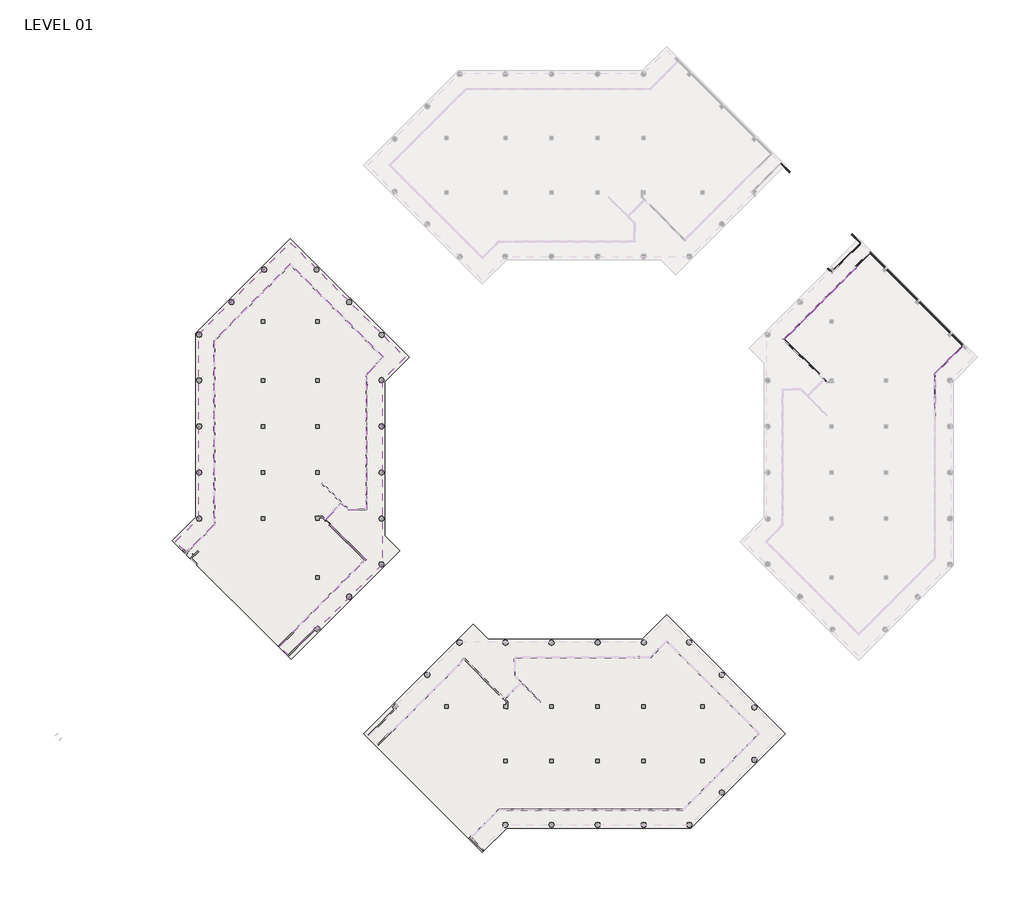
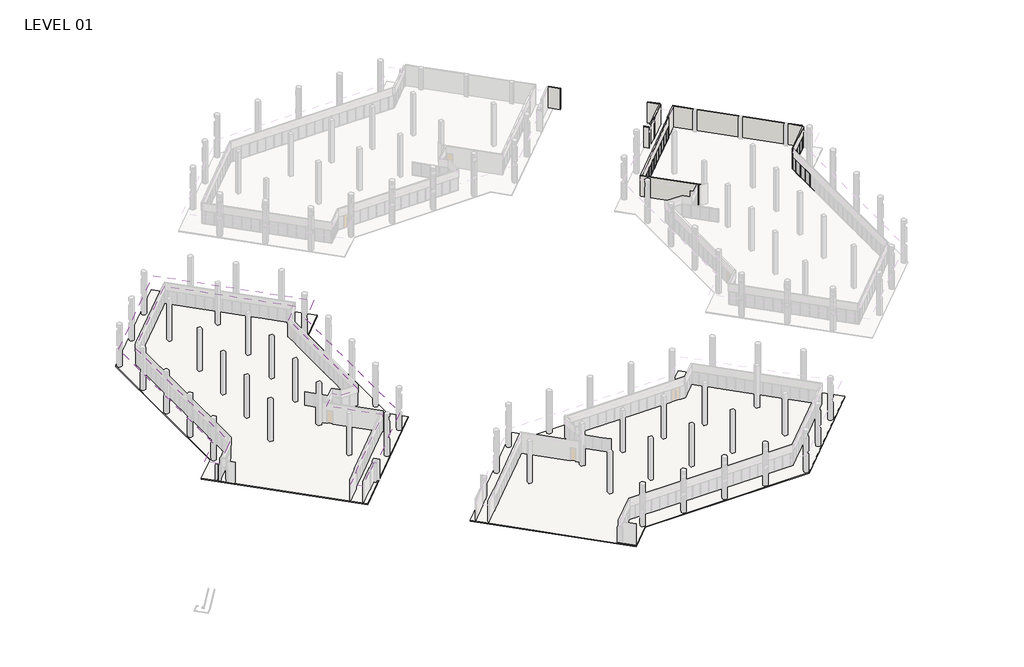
# One storey, part 15 of 24: 64 members, 20 plates, 14 walls, 2 slabs, 1 covering.
"""IFC4 building model written with IfcOpenShell, lengths in millimetres."""

from ifc_helpers import new_model, si_unit, frame, origin, origin_with_axes, place, context, project, spatial, polyline, outline, extrude, faceted_brep, transform, mapped, element, save
from components import member_ed5eb8ce, member_5247f267, member_e44af9ab, member_800970d4, member_224475ab, member_cca1f9e6, member_ccf7f6e3, plate_ce959b8d, plate_67294edd, plate_43a54168, plate_d12b1ad5, plate_aaac5d3d, plate_5a14c350, plate_1cd28498

model = new_model("IFC4")

# Units and contexts
model_context = context("Model", 3, world=origin())
ifc_project = project(units=[si_unit("LENGTHUNIT", "METRE", prefix="MILLI")], contexts=[model_context])

# Site, building, storey
site = spatial("IfcSite", under=ifc_project)
building = spatial("IfcBuilding", under=site)
storey = spatial("IfcBuildingStorey", under=building, Name="LEVEL 01", Elevation=0.0)

# Covering
placement = place(None, origin())
element("IfcCovering", 1, ObjectType="Stucco + Metal Suspension Channels", at=placement, inside=storey, context=model_context, shape_type="SweptSolid", body=[
    extrude(outline(polyline([(-34875.4336714, 40959.4165435), (-36193.9847164, 42277.9675885), (-32383.9847164, 46087.9675885), (-32383.9847164, 76567.9675885), (-17197.9597164, 91753.9925885), (1798.0652836, 72757.9675885), (-2011.9347164, 68947.9675885), (-2011.9347164, 38467.9675885), (-12428.6744716, 28051.2278334), (-12698.0821552, 28320.635517), (-12841.7662531, 28176.9514191), (-12859.7267654, 28194.9119313), (-13290.7790592, 27763.8596375), (-13272.8185469, 27745.8991252), (-14701.4485147, 26317.2691574), (-14755.3300515, 26371.1506942), (-17557.1699612, 23569.3107844), (-18927.4282643, 24939.5690874), (-16636.6937088, 27230.3036428), (-16703.2763852, 27296.8863192), (-4849.412314, 39150.7503904), (-4809.0011615, 39110.3392378), (-4665.3170635, 39254.0233358), (-11342.7867019, 45931.4929741), (-8728.3654509, 48545.9142251), (-7692.8188143, 47510.3675885), (-4501.1347164, 47510.3675885), (-4501.1347164, 69979.027988), (-1722.1951159, 72757.9675885), (-17197.9597164, 88233.7321891), (-29894.7847164, 75536.9071891), (-29894.7847164, 45056.9071891), (-34362.0124677, 40589.6794378), (-34803.5916224, 41031.2585924), (-34875.4336714, 40959.4165435)])), frame((0.0, 0.0, 3225.8), z_axis=(0.0, 0.0, 1.0), x_axis=(1.0, 0.0, 0.0)), (0.0, 0.0, 1.0), 38.1),
])

# Members
member_shape = member_ed5eb8ce(model_context)
element("IfcMember", 2, ObjectType="Rectangular Mullion : 2\" x 4.5\" rectangular", at=placement, inside=storey, context=model_context, shape_type="MappedRepresentation", body=[
    mapped(member_shape, transform((89445.0847164, 68973.3675885, 2590.8), x_axis=(0.0, 0.0, 1.0), y_axis=(-1.0, 0.0, 0.0), z_axis=(0.0, -1.0, 0.0))),
])
element("IfcMember", 3, ObjectType="Rectangular Mullion : 2\" x 4.5\" rectangular", at=placement, inside=storey, context=model_context, shape_type="MappedRepresentation", body=[
    mapped(member_shape, transform((90185.9558464, 70761.9832159, 2590.8), x_axis=(0.0, 0.0, 1.0), y_axis=(0.7071067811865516, -0.7071067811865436, 0.0), z_axis=(0.7071067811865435, 0.7071067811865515, 0.0))),
])
member_2_shape = member_5247f267(model_context)
element("IfcMember", 4, ObjectType="Rectangular Mullion : 2\" x 4.5\" rectangular", at=placement, inside=storey, context=model_context, shape_type="MappedRepresentation", body=[
    mapped(member_2_shape, transform((89445.0847164, 67449.3675885, 2590.8), x_axis=(0.0, 0.0, 1.0), y_axis=(-1.0, 0.0, 0.0), z_axis=(0.0, -1.0, 0.0))),
])
element("IfcMember", 5, ObjectType="Rectangular Mullion : 2\" x 4.5\" rectangular", at=placement, inside=storey, context=model_context, shape_type="MappedRepresentation", body=[
    mapped(member_2_shape, transform((72134.4856117, 83374.6739865, 2590.8), x_axis=(0.0, 0.0, 1.0), y_axis=(-0.7071067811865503, 0.7071067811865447, 0.0), z_axis=(-0.7071067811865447, -0.7071067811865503, 0.0))),
])
element("IfcMember", 6, ObjectType="Rectangular Mullion : 2\" x 4.5\" rectangular", at=placement, inside=storey, context=model_context, shape_type="MappedRepresentation", body=[
    mapped(member_2_shape, transform((69979.2537461, 81219.4421209, 2590.8), x_axis=(0.0, 0.0, 1.0), y_axis=(-0.7071067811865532, 0.7071067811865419, 0.0), z_axis=(-0.7071067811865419, -0.7071067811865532, 0.0))),
])
element("IfcMember", 7, ObjectType="Rectangular Mullion : 2\" x 4.5\" rectangular", at=placement, inside=storey, context=model_context, shape_type="MappedRepresentation", body=[
    mapped(member_2_shape, transform((68901.6378133, 80141.8261881, 2590.8), x_axis=(0.0, 0.0, 1.0), y_axis=(-0.7071067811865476, 0.7071067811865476, 0.0), z_axis=(-0.7071067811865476, -0.7071067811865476, 0.0))),
])
element("IfcMember", 8, ObjectType="Rectangular Mullion : 2\" x 4.5\" rectangular", at=placement, inside=storey, context=model_context, shape_type="MappedRepresentation", body=[
    mapped(member_2_shape, transform((66746.3763443, 77986.564719, 2590.8), x_axis=(0.0, 0.0, 1.0), y_axis=(-0.7071067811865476, 0.7071067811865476, 0.0), z_axis=(-0.7071067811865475, -0.7071067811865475, 0.0))),
])
element("IfcMember", 9, ObjectType="Rectangular Mullion : 2\" x 4.5\" rectangular", at=placement, inside=storey, context=model_context, shape_type="MappedRepresentation", body=[
    mapped(member_2_shape, transform((92341.2173154, 72917.244685, 2590.8), x_axis=(0.0, 0.0, 1.0), y_axis=(0.7071067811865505, -0.7071067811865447, 0.0), z_axis=(0.7071067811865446, 0.7071067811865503, 0.0))),
])
element("IfcMember", 10, ObjectType="Rectangular Mullion : 2\" x 4.5\" rectangular", at=placement, inside=storey, context=model_context, shape_type="MappedRepresentation", body=[
    mapped(member_2_shape, transform((89445.0847164, 65925.3675885, 2590.8), x_axis=(0.0, 0.0, 1.0), y_axis=(-1.0, 0.0, 0.0), z_axis=(0.0, -1.0, 0.0))),
])
element("IfcMember", 11, ObjectType="Rectangular Mullion : 2\" x 4.5\" rectangular", at=placement, inside=storey, context=model_context, shape_type="MappedRepresentation", body=[
    mapped(member_2_shape, transform((89445.0847164, 64401.3675885, 2590.8), x_axis=(0.0, 0.0, 1.0), y_axis=(-1.0, 0.0, 0.0), z_axis=(0.0, -1.0, 0.0))),
])
element("IfcMember", 12, ObjectType="Rectangular Mullion : 2\" x 4.5\" rectangular", at=placement, inside=storey, context=model_context, shape_type="MappedRepresentation", body=[
    mapped(member_2_shape, transform((74289.7174773, 85529.9058521, 2590.8), x_axis=(0.0, 0.0, 1.0), y_axis=(-0.7071067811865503, 0.7071067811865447, 0.0), z_axis=(-0.7071067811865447, -0.7071067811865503, 0.0))),
])
element("IfcMember", 13, ObjectType="Rectangular Mullion : 2\" x 4.5\" rectangular", at=placement, inside=storey, context=model_context, shape_type="MappedRepresentation", body=[
    mapped(member_2_shape, transform((71056.8696789, 82297.0580537, 2590.8), x_axis=(0.0, 0.0, 1.0), y_axis=(-0.7071067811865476, 0.7071067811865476, 0.0), z_axis=(-0.7071067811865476, -0.7071067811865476, 0.0))),
])
element("IfcMember", 14, ObjectType="Rectangular Mullion : 2\" x 4.5\" rectangular", at=placement, inside=storey, context=model_context, shape_type="MappedRepresentation", body=[
    mapped(member_2_shape, transform((73212.1015445, 84452.2899193, 2590.8), x_axis=(0.0, 0.0, 1.0), y_axis=(-0.7071067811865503, 0.7071067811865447, 0.0), z_axis=(-0.7071067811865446, -0.7071067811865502, 0.0))),
])
element("IfcMember", 15, ObjectType="Rectangular Mullion : 2\" x 4.5\" rectangular", at=placement, inside=storey, context=model_context, shape_type="MappedRepresentation", body=[
    mapped(member_2_shape, transform((67824.0070788, 79064.1954535, 2590.8), x_axis=(0.0, 0.0, 1.0), y_axis=(-0.7071067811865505, 0.7071067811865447, 0.0), z_axis=(-0.7071067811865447, -0.7071067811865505, 0.0))),
])
element("IfcMember", 16, ObjectType="Rectangular Mullion : 2\" x 4.5\" rectangular", at=placement, inside=storey, context=model_context, shape_type="MappedRepresentation", body=[
    mapped(member_2_shape, transform((65668.7456097, 76908.9339845, 2590.8), x_axis=(0.0, 0.0, 1.0), y_axis=(-0.7071067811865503, 0.7071067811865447, 0.0), z_axis=(-0.7071067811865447, -0.7071067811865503, 0.0))),
])
element("IfcMember", 17, ObjectType="Rectangular Mullion : 2\" x 4.5\" rectangular", at=placement, inside=storey, context=model_context, shape_type="MappedRepresentation", body=[
    mapped(member_2_shape, transform((91263.5865809, 71839.6139504, 2590.8), x_axis=(0.0, 0.0, 1.0), y_axis=(0.7071067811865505, -0.7071067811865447, 0.0), z_axis=(0.7071067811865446, 0.7071067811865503, 0.0))),
])
element("IfcMember", 18, ObjectType="Rectangular Mullion : 2\" x 4.5\" rectangular", at=placement, inside=storey, context=model_context, shape_type="MappedRepresentation", body=[
    mapped(member_2_shape, transform((93418.84805, 73994.8754195, 2590.8), x_axis=(0.0, 0.0, 1.0), y_axis=(0.7071067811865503, -0.7071067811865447, 0.0), z_axis=(0.7071067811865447, 0.7071067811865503, 0.0))),
])
element("IfcMember", 19, ObjectType="Rectangular Mullion : 2\" x 4.5\" rectangular", at=placement, inside=storey, context=model_context, shape_type="MappedRepresentation", body=[
    mapped(member_shape, transform((89445.0847164, 69970.3120859, 0.0), x_axis=(0.0, 0.0, -1.0), y_axis=(-1.0, 0.0, 0.0), z_axis=(0.0, 1.0, 0.0))),
])
element("IfcMember", 20, ObjectType="Rectangular Mullion : 2\" x 4.5\" rectangular", at=placement, inside=storey, context=model_context, shape_type="MappedRepresentation", body=[
    mapped(member_shape, transform((89481.0057409, 70057.0331104, 0.0), x_axis=(0.0, 0.0, -1.0), y_axis=(0.7071067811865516, -0.7071067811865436, 0.0), z_axis=(-0.7071067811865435, -0.7071067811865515, 0.0))),
])
element("IfcMember", 21, ObjectType="Rectangular Mullion : 2\" x 4.5\" rectangular", at=placement, inside=storey, context=model_context, shape_type="MappedRepresentation", body=[
    mapped(member_2_shape, transform((89445.0847164, 68922.5675885, 0.0), x_axis=(0.0, 0.0, -1.0), y_axis=(-1.0, 0.0, 0.0), z_axis=(0.0, 1.0, 0.0))),
])
element("IfcMember", 22, ObjectType="Rectangular Mullion : 2\" x 4.5\" rectangular", at=placement, inside=storey, context=model_context, shape_type="MappedRepresentation", body=[
    mapped(member_2_shape, transform((89445.0847164, 67398.5675885, 0.0), x_axis=(0.0, 0.0, -1.0), y_axis=(-1.0, 0.0, 0.0), z_axis=(0.0, 1.0, 0.0))),
])
element("IfcMember", 23, ObjectType="Rectangular Mullion : 2\" x 4.5\" rectangular", at=placement, inside=storey, context=model_context, shape_type="MappedRepresentation", body=[
    mapped(member_2_shape, transform((90221.8768709, 70797.9042404, 0.0), x_axis=(0.0, 0.0, -1.0), y_axis=(0.7071067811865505, -0.7071067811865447, 0.0), z_axis=(-0.7071067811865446, -0.7071067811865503, 0.0))),
])
element("IfcMember", 24, ObjectType="Rectangular Mullion : 2\" x 4.5\" rectangular", at=placement, inside=storey, context=model_context, shape_type="MappedRepresentation", body=[
    mapped(member_2_shape, transform((75331.4271874, 86571.6155621, 0.0), x_axis=(0.0, 0.0, -1.0), y_axis=(-0.7071067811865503, 0.7071067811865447, 0.0), z_axis=(0.7071067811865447, 0.7071067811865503, 0.0))),
])
element("IfcMember", 25, ObjectType="Rectangular Mullion : 2\" x 4.5\" rectangular", at=placement, inside=storey, context=model_context, shape_type="MappedRepresentation", body=[
    mapped(member_2_shape, transform((72098.5645873, 83338.752962, 0.0), x_axis=(0.0, 0.0, -1.0), y_axis=(-0.7071067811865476, 0.7071067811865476, 0.0), z_axis=(0.7071067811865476, 0.7071067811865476, 0.0))),
])
element("IfcMember", 26, ObjectType="Rectangular Mullion : 2\" x 4.5\" rectangular", at=placement, inside=storey, context=model_context, shape_type="MappedRepresentation", body=[
    mapped(member_2_shape, transform((69943.3327217, 81183.5210964, 0.0), x_axis=(0.0, 0.0, -1.0), y_axis=(-0.7071067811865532, 0.7071067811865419, 0.0), z_axis=(0.7071067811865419, 0.7071067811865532, 0.0))),
])
element("IfcMember", 27, ObjectType="Rectangular Mullion : 2\" x 4.5\" rectangular", at=placement, inside=storey, context=model_context, shape_type="MappedRepresentation", body=[
    mapped(member_2_shape, transform((68865.7167888, 80105.9051636, 0.0), x_axis=(0.0, 0.0, -1.0), y_axis=(-0.7071067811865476, 0.7071067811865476, 0.0), z_axis=(0.7071067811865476, 0.7071067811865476, 0.0))),
])
element("IfcMember", 28, ObjectType="Rectangular Mullion : 2\" x 4.5\" rectangular", at=placement, inside=storey, context=model_context, shape_type="MappedRepresentation", body=[
    mapped(member_2_shape, transform((66710.4553198, 77950.6436945, 0.0), x_axis=(0.0, 0.0, -1.0), y_axis=(-0.7071067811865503, 0.7071067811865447, 0.0), z_axis=(0.7071067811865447, 0.7071067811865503, 0.0))),
])
element("IfcMember", 29, ObjectType="Rectangular Mullion : 2\" x 4.5\" rectangular", at=placement, inside=storey, context=model_context, shape_type="MappedRepresentation", body=[
    mapped(member_2_shape, transform((92377.1383399, 72953.1657094, 0.0), x_axis=(0.0, 0.0, -1.0), y_axis=(0.7071067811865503, -0.7071067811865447, 0.0), z_axis=(-0.7071067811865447, -0.7071067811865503, 0.0))),
])
element("IfcMember", 30, ObjectType="Rectangular Mullion : 2\" x 4.5\" rectangular", at=placement, inside=storey, context=model_context, shape_type="MappedRepresentation", body=[
    mapped(member_2_shape, transform((89445.0847164, 65874.5675885, 0.0), x_axis=(0.0, 0.0, -1.0), y_axis=(-1.0, 0.0, 0.0), z_axis=(0.0, 1.0, 0.0))),
])
element("IfcMember", 31, ObjectType="Rectangular Mullion : 2\" x 4.5\" rectangular", at=placement, inside=storey, context=model_context, shape_type="MappedRepresentation", body=[
    mapped(member_2_shape, transform((89445.0847164, 64350.5675885, 0.0), x_axis=(0.0, 0.0, -1.0), y_axis=(-1.0, 0.0, 0.0), z_axis=(0.0, 1.0, 0.0))),
])
element("IfcMember", 32, ObjectType="Rectangular Mullion : 2\" x 4.5\" rectangular", at=placement, inside=storey, context=model_context, shape_type="MappedRepresentation", body=[
    mapped(member_2_shape, transform((74253.7964529, 85493.9848276, 0.0), x_axis=(0.0, 0.0, -1.0), y_axis=(-0.7071067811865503, 0.7071067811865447, 0.0), z_axis=(0.7071067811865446, 0.7071067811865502, 0.0))),
])
element("IfcMember", 33, ObjectType="Rectangular Mullion : 2\" x 4.5\" rectangular", at=placement, inside=storey, context=model_context, shape_type="MappedRepresentation", body=[
    mapped(member_2_shape, transform((71020.9486545, 82261.1370292, 0.0), x_axis=(0.0, 0.0, -1.0), y_axis=(-0.7071067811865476, 0.7071067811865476, 0.0), z_axis=(0.7071067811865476, 0.7071067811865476, 0.0))),
])
element("IfcMember", 34, ObjectType="Rectangular Mullion : 2\" x 4.5\" rectangular", at=placement, inside=storey, context=model_context, shape_type="MappedRepresentation", body=[
    mapped(member_2_shape, transform((73176.1805201, 84416.3688948, 0.0), x_axis=(0.0, 0.0, -1.0), y_axis=(-0.7071067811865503, 0.7071067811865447, 0.0), z_axis=(0.7071067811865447, 0.7071067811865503, 0.0))),
])
element("IfcMember", 35, ObjectType="Rectangular Mullion : 2\" x 4.5\" rectangular", at=placement, inside=storey, context=model_context, shape_type="MappedRepresentation", body=[
    mapped(member_2_shape, transform((67788.0860543, 79028.274429, 0.0), x_axis=(0.0, 0.0, -1.0), y_axis=(-0.7071067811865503, 0.7071067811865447, 0.0), z_axis=(0.7071067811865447, 0.7071067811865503, 0.0))),
])
element("IfcMember", 36, ObjectType="Rectangular Mullion : 2\" x 4.5\" rectangular", at=placement, inside=storey, context=model_context, shape_type="MappedRepresentation", body=[
    mapped(member_2_shape, transform((91299.5076054, 71875.5349749, 0.0), x_axis=(0.0, 0.0, -1.0), y_axis=(0.7071067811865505, -0.7071067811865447, 0.0), z_axis=(-0.7071067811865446, -0.7071067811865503, 0.0))),
])
member_3_shape = member_e44af9ab(model_context)
element("IfcMember", 37, ObjectType="Rectangular Mullion : 2\" x 4.5\" rectangular", at=placement, inside=storey, context=model_context, shape_type="MappedRepresentation", body=[
    mapped(member_3_shape, transform((89445.0847164, 68947.9675885, 0.0), x_axis=(0.0, -1.0, 0.0), y_axis=(-1.0, 0.0, 0.0), z_axis=(0.0, 0.0, -1.0))),
])
element("IfcMember", 38, ObjectType="Rectangular Mullion : 2\" x 4.5\" rectangular", at=placement, inside=storey, context=model_context, shape_type="MappedRepresentation", body=[
    mapped(member_3_shape, transform((89445.0847164, 67423.9675885, 0.0), x_axis=(0.0, -1.0, 0.0), y_axis=(-1.0, 0.0, 0.0), z_axis=(0.0, 0.0, -1.0))),
])
element("IfcMember", 39, ObjectType="Rectangular Mullion : 2\" x 4.5\" rectangular", at=placement, inside=storey, context=model_context, shape_type="MappedRepresentation", body=[
    mapped(member_3_shape, transform((90203.9163586, 70779.9437281, 0.0), x_axis=(0.7071067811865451, 0.70710678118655, 0.0), y_axis=(0.70710678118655, -0.7071067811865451, 0.0), z_axis=(0.0, 0.0, -1.0))),
])
element("IfcMember", 40, ObjectType="Rectangular Mullion : 2\" x 4.5\" rectangular", at=placement, inside=storey, context=model_context, shape_type="MappedRepresentation", body=[
    mapped(member_3_shape, transform((75349.3876996, 86589.5760744, 0.0), x_axis=(-0.7071067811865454, -0.7071067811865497, 0.0), y_axis=(-0.7071067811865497, 0.7071067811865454, 0.0), z_axis=(0.0, 0.0, -1.0))),
])
element("IfcMember", 41, ObjectType="Rectangular Mullion : 2\" x 4.5\" rectangular", at=placement, inside=storey, context=model_context, shape_type="MappedRepresentation", body=[
    mapped(member_3_shape, transform((72116.5250995, 83356.7134742, 0.0), x_axis=(-0.7071067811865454, -0.7071067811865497, 0.0), y_axis=(-0.7071067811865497, 0.7071067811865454, 0.0), z_axis=(0.0, 0.0, -1.0))),
])
element("IfcMember", 42, ObjectType="Rectangular Mullion : 2\" x 4.5\" rectangular", at=placement, inside=storey, context=model_context, shape_type="MappedRepresentation", body=[
    mapped(member_3_shape, transform((69961.2932339, 81201.4816086, 0.0), x_axis=(-0.7071067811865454, -0.7071067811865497, 0.0), y_axis=(-0.7071067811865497, 0.7071067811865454, 0.0), z_axis=(0.0, 0.0, -1.0))),
])
element("IfcMember", 43, ObjectType="Rectangular Mullion : 2\" x 4.5\" rectangular", at=placement, inside=storey, context=model_context, shape_type="MappedRepresentation", body=[
    mapped(member_3_shape, transform((68883.6773011, 80123.8656758, 0.0), x_axis=(-0.7071067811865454, -0.7071067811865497, 0.0), y_axis=(-0.7071067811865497, 0.7071067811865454, 0.0), z_axis=(0.0, 0.0, -1.0))),
])
element("IfcMember", 44, ObjectType="Rectangular Mullion : 2\" x 4.5\" rectangular", at=placement, inside=storey, context=model_context, shape_type="MappedRepresentation", body=[
    mapped(member_3_shape, transform((66728.415832, 77968.6042068, 0.0), x_axis=(-0.7071067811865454, -0.7071067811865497, 0.0), y_axis=(-0.7071067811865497, 0.7071067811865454, 0.0), z_axis=(0.0, 0.0, -1.0))),
])
element("IfcMember", 45, ObjectType="Rectangular Mullion : 2\" x 4.5\" rectangular", at=placement, inside=storey, context=model_context, shape_type="MappedRepresentation", body=[
    mapped(member_3_shape, transform((92359.1778277, 72935.2051972, 0.0), x_axis=(0.7071067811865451, 0.70710678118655, 0.0), y_axis=(0.70710678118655, -0.7071067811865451, 0.0), z_axis=(0.0, 0.0, -1.0))),
])
element("IfcMember", 46, ObjectType="Rectangular Mullion : 2\" x 4.5\" rectangular", at=placement, inside=storey, context=model_context, shape_type="MappedRepresentation", body=[
    mapped(member_3_shape, transform((89445.0847164, 65899.9675885, 0.0), x_axis=(0.0, -1.0, 0.0), y_axis=(-1.0, 0.0, 0.0), z_axis=(0.0, 0.0, -1.0))),
])
element("IfcMember", 47, ObjectType="Rectangular Mullion : 2\" x 4.5\" rectangular", at=placement, inside=storey, context=model_context, shape_type="MappedRepresentation", body=[
    mapped(member_3_shape, transform((89445.0847164, 64375.9675885, 0.0), x_axis=(0.0, -1.0, 0.0), y_axis=(-1.0, 0.0, 0.0), z_axis=(0.0, 0.0, -1.0))),
])
element("IfcMember", 48, ObjectType="Rectangular Mullion : 2\" x 4.5\" rectangular", at=placement, inside=storey, context=model_context, shape_type="MappedRepresentation", body=[
    mapped(member_3_shape, transform((74271.7569651, 85511.9453398, 0.0), x_axis=(-0.7071067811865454, -0.7071067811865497, 0.0), y_axis=(-0.7071067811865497, 0.7071067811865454, 0.0), z_axis=(0.0, 0.0, -1.0))),
])
element("IfcMember", 49, ObjectType="Rectangular Mullion : 2\" x 4.5\" rectangular", at=placement, inside=storey, context=model_context, shape_type="MappedRepresentation", body=[
    mapped(member_3_shape, transform((71038.9091667, 82279.0975414, 0.0), x_axis=(-0.7071067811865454, -0.7071067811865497, 0.0), y_axis=(-0.7071067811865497, 0.7071067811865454, 0.0), z_axis=(0.0, 0.0, -1.0))),
])
element("IfcMember", 50, ObjectType="Rectangular Mullion : 2\" x 4.5\" rectangular", at=placement, inside=storey, context=model_context, shape_type="MappedRepresentation", body=[
    mapped(member_3_shape, transform((73194.1410323, 84434.329407, 0.0), x_axis=(-0.7071067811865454, -0.7071067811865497, 0.0), y_axis=(-0.7071067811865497, 0.7071067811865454, 0.0), z_axis=(0.0, 0.0, -1.0))),
])
element("IfcMember", 51, ObjectType="Rectangular Mullion : 2\" x 4.5\" rectangular", at=placement, inside=storey, context=model_context, shape_type="MappedRepresentation", body=[
    mapped(member_3_shape, transform((67806.0465666, 79046.2349413, 0.0), x_axis=(-0.7071067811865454, -0.7071067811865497, 0.0), y_axis=(-0.7071067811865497, 0.7071067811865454, 0.0), z_axis=(0.0, 0.0, -1.0))),
])
element("IfcMember", 52, ObjectType="Rectangular Mullion : 2\" x 4.5\" rectangular", at=placement, inside=storey, context=model_context, shape_type="MappedRepresentation", body=[
    mapped(member_3_shape, transform((65650.7850975, 76890.9734722, 0.0), x_axis=(-0.7071067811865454, -0.7071067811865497, 0.0), y_axis=(-0.7071067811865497, 0.7071067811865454, 0.0), z_axis=(0.0, 0.0, -1.0))),
])
element("IfcMember", 53, ObjectType="Rectangular Mullion : 2\" x 4.5\" rectangular", at=placement, inside=storey, context=model_context, shape_type="MappedRepresentation", body=[
    mapped(member_3_shape, transform((91281.5470932, 71857.5744627, 0.0), x_axis=(0.7071067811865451, 0.70710678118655, 0.0), y_axis=(0.70710678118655, -0.7071067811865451, 0.0), z_axis=(0.0, 0.0, -1.0))),
])
element("IfcMember", 54, ObjectType="Rectangular Mullion : 2\" x 4.5\" rectangular", at=placement, inside=storey, context=model_context, shape_type="MappedRepresentation", body=[
    mapped(member_3_shape, transform((93436.8085622, 74012.8359317, 0.0), x_axis=(0.7071067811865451, 0.70710678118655, 0.0), y_axis=(0.70710678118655, -0.7071067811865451, 0.0), z_axis=(0.0, 0.0, -1.0))),
])
member_4_shape = member_800970d4(model_context)
element("IfcMember", 55, ObjectType="Rectangular Mullion : 2\" x 4.5\" rectangular", at=placement, inside=storey, context=model_context, shape_type="MappedRepresentation", body=[
    mapped(member_4_shape, transform((93942.0704187, 74518.0977883, 0.0), x_axis=(0.7071067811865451, 0.70710678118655, 0.0), y_axis=(0.70710678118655, -0.7071067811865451, 0.0), z_axis=(0.0, 0.0, -1.0))),
])
element("IfcMember", 56, ObjectType="Rectangular Mullion : 2\" x 4.5\" rectangular", at=placement, inside=storey, context=model_context, shape_type="MappedRepresentation", body=[
    mapped(member_4_shape, transform((64573.154363, 75813.3427377, 0.0), x_axis=(-0.7071067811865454, -0.7071067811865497, 0.0), y_axis=(-0.7071067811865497, 0.7071067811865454, 0.0), z_axis=(0.0, 0.0, -1.0))),
])
element("IfcMember", 57, ObjectType="Rectangular Mullion : 2\" x 4.5\" rectangular", at=placement, inside=storey, context=model_context, shape_type="MappedRepresentation", body=[
    mapped(member_4_shape, transform((89445.0847164, 70021.1120859, 2590.8), x_axis=(0.0, 1.0, 0.0), y_axis=(-1.0, 0.0, 0.0), z_axis=(0.0, 0.0, 1.0))),
])
element("IfcMember", 58, ObjectType="Rectangular Mullion : 2\" x 4.5\" rectangular", at=placement, inside=storey, context=model_context, shape_type="MappedRepresentation", body=[
    mapped(member_4_shape, transform((89445.0847164, 70021.1120859, 2590.8), x_axis=(-0.7071067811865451, -0.70710678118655, 0.0), y_axis=(0.70710678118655, -0.7071067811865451, 0.0), z_axis=(0.0, 0.0, 1.0))),
])
element("IfcMember", 59, ObjectType="Rectangular Mullion : 2\" x 4.5\" rectangular", at=placement, inside=storey, context=model_context, shape_type="MappedRepresentation", body=[
    mapped(member_4_shape, transform((76427.0924428, 87667.2808175, 2590.8), x_axis=(0.7071067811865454, 0.7071067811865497, 0.0), y_axis=(-0.7071067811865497, 0.7071067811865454, 0.0), z_axis=(0.0, 0.0, 1.0))),
])
member_5_shape = member_224475ab(model_context)
element("IfcMember", 60, ObjectType="Rectangular Mullion : 2\" x 4.5\" rectangular", at=placement, inside=storey, context=model_context, shape_type="MappedRepresentation", body=[
    mapped(member_5_shape, transform((93906.1493943, 74482.1767638, 2590.8), x_axis=(0.0, 0.0, 1.0), y_axis=(0.7071067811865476, -0.7071067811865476, 0.0), z_axis=(0.7071067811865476, 0.7071067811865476, 0.0))),
])
element("IfcMember", 61, ObjectType="Rectangular Mullion : 2\" x 4.5\" rectangular", at=placement, inside=storey, context=model_context, shape_type="MappedRepresentation", body=[
    mapped(member_5_shape, transform((93454.7690745, 74030.796444, 0.0), x_axis=(0.0, 0.0, -1.0), y_axis=(0.7071067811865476, -0.7071067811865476, 0.0), z_axis=(-0.7071067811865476, -0.7071067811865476, 0.0))),
])
member_6_shape = member_cca1f9e6(model_context)
element("IfcMember", 62, ObjectType="Rectangular Mullion : 2\" x 4.5\" rectangular", at=placement, inside=storey, context=model_context, shape_type="MappedRepresentation", body=[
    mapped(member_6_shape, transform((64609.0753875, 75849.2637622, 2590.8), x_axis=(0.0, 0.0, 1.0), y_axis=(-0.7071067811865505, 0.7071067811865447, 0.0), z_axis=(-0.7071067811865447, -0.7071067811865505, 0.0))),
])
element("IfcMember", 63, ObjectType="Rectangular Mullion : 2\" x 4.5\" rectangular", at=placement, inside=storey, context=model_context, shape_type="MappedRepresentation", body=[
    mapped(member_6_shape, transform((75367.3482119, 86607.5365866, 2590.8), x_axis=(0.0, 0.0, 1.0), y_axis=(-0.7071067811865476, 0.7071067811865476, 0.0), z_axis=(-0.7071067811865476, -0.7071067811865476, 0.0))),
])
member_7_shape = member_ccf7f6e3(model_context)
element("IfcMember", 64, ObjectType="Rectangular Mullion : 2\" x 4.5\" rectangular", at=placement, inside=storey, context=model_context, shape_type="MappedRepresentation", body=[
    mapped(member_7_shape, transform((76391.1714183, 87631.359793, 0.0), x_axis=(0.0, 0.0, -1.0), y_axis=(-0.7071067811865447, 0.7071067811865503, 0.0), z_axis=(0.7071067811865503, 0.7071067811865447, 0.0))),
])
element("IfcMember", 65, ObjectType="Rectangular Mullion : 2\" x 4.5\" rectangular", at=placement, inside=storey, context=model_context, shape_type="MappedRepresentation", body=[
    mapped(member_7_shape, transform((65632.8245853, 76873.01296, 0.0), x_axis=(0.0, 0.0, -1.0), y_axis=(-0.7071067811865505, 0.7071067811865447, 0.0), z_axis=(0.7071067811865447, 0.7071067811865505, 0.0))),
])

# Plates
plate_shape = plate_ce959b8d(model_context)
element("IfcPlate", 66, ObjectType="System Panel : 1/4\" Glass", at=placement, inside=storey, context=model_context, shape_type="MappedRepresentation", body=[
    mapped(plate_shape, transform((89445.0847164, 69471.8398372, 50.8), x_axis=(0.0, -1.0, 0.0), y_axis=(1.0, 0.0, 0.0), z_axis=(0.0, 0.0, 1.0))),
])
plate_2_shape = plate_67294edd(model_context)
element("IfcPlate", 67, ObjectType="System Panel : 1/4\" Glass", at=placement, inside=storey, context=model_context, shape_type="MappedRepresentation", body=[
    mapped(plate_2_shape, transform((89445.0847164, 68185.9675885, 50.8), x_axis=(0.0, -1.0, 0.0), y_axis=(1.0, 0.0, 0.0), z_axis=(0.0, 0.0, 1.0))),
])
element("IfcPlate", 68, ObjectType="System Panel : 1/4\" Glass", at=placement, inside=storey, context=model_context, shape_type="MappedRepresentation", body=[
    mapped(plate_2_shape, transform((89445.0847164, 66661.9675885, 50.8), x_axis=(0.0, -1.0, 0.0), y_axis=(1.0, 0.0, 0.0), z_axis=(0.0, 0.0, 1.0))),
])
element("IfcPlate", 69, ObjectType="System Panel : 1/4\" Glass", at=placement, inside=storey, context=model_context, shape_type="MappedRepresentation", body=[
    mapped(plate_2_shape, transform((90742.7317259, 71318.7590954, 50.8), x_axis=(0.7071067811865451, 0.70710678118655, 0.0), y_axis=(-0.70710678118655, 0.7071067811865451, 0.0), z_axis=(0.0, 0.0, 1.0))),
])
element("IfcPlate", 70, ObjectType="System Panel : 1/4\" Glass", at=placement, inside=storey, context=model_context, shape_type="MappedRepresentation", body=[
    mapped(plate_2_shape, transform((74810.5723324, 86050.7607071, 50.8), x_axis=(-0.7071067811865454, -0.7071067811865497, 0.0), y_axis=(0.7071067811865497, -0.7071067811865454, 0.0), z_axis=(0.0, 0.0, 1.0))),
])
element("IfcPlate", 71, ObjectType="System Panel : 1/4\" Glass", at=placement, inside=storey, context=model_context, shape_type="MappedRepresentation", body=[
    mapped(plate_2_shape, transform((68344.8619338, 79585.0503085, 50.8), x_axis=(-0.7071067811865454, -0.7071067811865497, 0.0), y_axis=(0.7071067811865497, -0.7071067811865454, 0.0), z_axis=(0.0, 0.0, 1.0))),
])
element("IfcPlate", 72, ObjectType="System Panel : 1/4\" Glass", at=placement, inside=storey, context=model_context, shape_type="MappedRepresentation", body=[
    mapped(plate_2_shape, transform((66189.6004648, 77429.7888395, 50.8), x_axis=(-0.7071067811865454, -0.7071067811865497, 0.0), y_axis=(0.7071067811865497, -0.7071067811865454, 0.0), z_axis=(0.0, 0.0, 1.0))),
])
element("IfcPlate", 73, ObjectType="System Panel : 1/4\" Glass", at=placement, inside=storey, context=model_context, shape_type="MappedRepresentation", body=[
    mapped(plate_2_shape, transform((92897.993195, 73474.0205645, 50.8), x_axis=(0.7071067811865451, 0.70710678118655, 0.0), y_axis=(-0.70710678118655, 0.7071067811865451, 0.0), z_axis=(0.0, 0.0, 1.0))),
])
element("IfcPlate", 74, ObjectType="System Panel : 1/4\" Glass", at=placement, inside=storey, context=model_context, shape_type="MappedRepresentation", body=[
    mapped(plate_2_shape, transform((89445.0847164, 65137.9675885, 50.8), x_axis=(0.0, -1.0, 0.0), y_axis=(1.0, 0.0, 0.0), z_axis=(0.0, 0.0, 1.0))),
])
element("IfcPlate", 75, ObjectType="System Panel : 1/4\" Glass", at=placement, inside=storey, context=model_context, shape_type="MappedRepresentation", body=[
    mapped(plate_2_shape, transform((67267.2311993, 78507.419574, 50.8), x_axis=(-0.7071067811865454, -0.7071067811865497, 0.0), y_axis=(0.7071067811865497, -0.7071067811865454, 0.0), z_axis=(0.0, 0.0, 1.0))),
])
element("IfcPlate", 76, ObjectType="System Panel : 1/4\" Glass", at=placement, inside=storey, context=model_context, shape_type="MappedRepresentation", body=[
    mapped(plate_2_shape, transform((91820.3624604, 72396.3898299, 50.8), x_axis=(0.7071067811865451, 0.70710678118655, 0.0), y_axis=(-0.70710678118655, 0.7071067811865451, 0.0), z_axis=(0.0, 0.0, 1.0))),
])
plate_3_shape = plate_43a54168(model_context)
element("IfcPlate", 77, ObjectType="System Panel : 1/4\" Glass", at=placement, inside=storey, context=model_context, shape_type="MappedRepresentation", body=[
    mapped(plate_3_shape, transform((89833.4807936, 70409.5081632, 50.8), x_axis=(0.7071067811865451, 0.70710678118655, 0.0), y_axis=(-0.70710678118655, 0.7071067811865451, 0.0), z_axis=(0.0, 0.0, 1.0))),
])
plate_4_shape = plate_d12b1ad5(model_context)
element("IfcPlate", 78, ObjectType="System Panel : 1/4\" Glass", at=placement, inside=storey, context=model_context, shape_type="MappedRepresentation", body=[
    mapped(plate_4_shape, transform((75879.2598151, 87119.4481898, 50.8), x_axis=(-0.7071067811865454, -0.7071067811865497, 0.0), y_axis=(0.7071067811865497, -0.7071067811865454, 0.0), z_axis=(0.0, 0.0, 1.0))),
])
plate_5_shape = plate_aaac5d3d(model_context)
element("IfcPlate", 79, ObjectType="System Panel : 1/4\" Glass", at=placement, inside=storey, context=model_context, shape_type="MappedRepresentation", body=[
    mapped(plate_5_shape, transform((71577.7171331, 82817.9055078, 50.8), x_axis=(-0.7071067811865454, -0.7071067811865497, 0.0), y_axis=(0.7071067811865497, -0.7071067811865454, 0.0), z_axis=(0.0, 0.0, 1.0))),
])
element("IfcPlate", 80, ObjectType="System Panel : 1/4\" Glass", at=placement, inside=storey, context=model_context, shape_type="MappedRepresentation", body=[
    mapped(plate_5_shape, transform((69422.4852675, 80662.6736422, 50.8), x_axis=(-0.7071067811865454, -0.7071067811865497, 0.0), y_axis=(0.7071067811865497, -0.7071067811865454, 0.0), z_axis=(0.0, 0.0, 1.0))),
])
element("IfcPlate", 81, ObjectType="System Panel : 1/4\" Glass", at=placement, inside=storey, context=model_context, shape_type="MappedRepresentation", body=[
    mapped(plate_5_shape, transform((73732.9489987, 84973.1373734, 50.8), x_axis=(-0.7071067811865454, -0.7071067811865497, 0.0), y_axis=(0.7071067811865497, -0.7071067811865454, 0.0), z_axis=(0.0, 0.0, 1.0))),
])
element("IfcPlate", 82, ObjectType="System Panel : 1/4\" Glass", at=placement, inside=storey, context=model_context, shape_type="MappedRepresentation", body=[
    mapped(plate_5_shape, transform((70500.1012003, 81740.289575, 50.8), x_axis=(-0.7071067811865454, -0.7071067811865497, 0.0), y_axis=(0.7071067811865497, -0.7071067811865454, 0.0), z_axis=(0.0, 0.0, 1.0))),
])
element("IfcPlate", 83, ObjectType="System Panel : 1/4\" Glass", at=placement, inside=storey, context=model_context, shape_type="MappedRepresentation", body=[
    mapped(plate_5_shape, transform((72655.3330659, 83895.5214406, 50.8), x_axis=(-0.7071067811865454, -0.7071067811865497, 0.0), y_axis=(0.7071067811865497, -0.7071067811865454, 0.0), z_axis=(0.0, 0.0, 1.0))),
])
plate_6_shape = plate_5a14c350(model_context)
element("IfcPlate", 84, ObjectType="System Panel : 1/4\" Glass", at=placement, inside=storey, context=model_context, shape_type="MappedRepresentation", body=[
    mapped(plate_6_shape, transform((65120.9499864, 76361.1383611, 50.8), x_axis=(-0.7071067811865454, -0.7071067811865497, 0.0), y_axis=(0.7071067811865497, -0.7071067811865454, 0.0), z_axis=(0.0, 0.0, 1.0))),
])
plate_7_shape = plate_1cd28498(model_context)
element("IfcPlate", 85, ObjectType="System Panel : 1/4\" Glass", at=placement, inside=storey, context=model_context, shape_type="MappedRepresentation", body=[
    mapped(plate_7_shape, transform((93680.4592344, 74256.4866039, 50.8), x_axis=(0.7071067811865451, 0.70710678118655, 0.0), y_axis=(-0.70710678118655, 0.7071067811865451, 0.0), z_axis=(0.0, 0.0, 1.0))),
])

# Slabs
element("IfcSlab", 86, ObjectType="5\" Concrete Slab", at=placement, inside=storey, context=model_context, shape_type="SweptSolid", body=[
    extrude(outline(polyline([(41066.5715593, 26137.2828721), (45065.95, 30136.6613128), (64708.5534407, 10494.0578721), (49065.3284407, -5149.1671279), (18585.3284407, -5149.1671279), (14585.95, -9148.5455686), (-5056.6534407, 10494.0578721), (13081.0586404, 28631.7699533), (15575.5457216, 26137.2828721), (41066.5715593, 26137.2828721)])), frame((0.0, 0.0, -127.0), z_axis=(0.0, 0.0, 1.0), x_axis=(1.0, 0.0, 0.0)), (0.0, 0.0, 1.0), 127.0),
])
element("IfcSlab", 87, ObjectType="5\" Concrete Slab", at=placement, inside=storey, context=model_context, shape_type="SweptSolid", body=[
    extrude(outline(polyline([(-1554.7347164, 68758.5891478), (-1554.7347164, 43267.5633101), (939.7523648, 40773.076229), (-17054.2756185, 22779.0482457), (-36696.8790592, 42421.6516865), (-32841.1847164, 46277.3460292), (-32841.1847164, 76757.3460292), (-17197.9597164, 92400.5710292), (2444.6437243, 72757.9675885), (-1554.7347164, 68758.5891478)])), frame((0.0, 0.0, -127.0), z_axis=(0.0, 0.0, 1.0), x_axis=(1.0, 0.0, 0.0)), (0.0, 0.0, 1.0), 127.0),
])

# Walls
element("IfcWall", 88, ObjectType="01-MASONRY-8", at=placement, inside=storey, context=model_context, shape_type="SweptSolid", body=[
    extrude(outline(polyline([(87043.0409857, 81920.021564), (91970.2057409, 76992.8568089), (91826.5216429, 76849.1727109), (86899.3568878, 81776.3374661), (87043.0409857, 81920.021564)])), origin_with_axes(), (0.0, 0.0, 1.0), 4089.4),
])
element("IfcWall", 89, ObjectType="01-MASONRY-8", at=placement, inside=storey, context=model_context, shape_type="SweptSolid", body=[
    extrude(outline(polyline([(93916.6762551, 74759.0180988), (92257.5739368, 76418.1204171), (92401.2580347, 76561.8045151), (94060.3603531, 74902.7021967), (93916.6762551, 74759.0180988)])), origin_with_axes(), (0.0, 0.0, 1.0), 4089.4),
])
element("IfcWall", 90, ObjectType="01-MASONRY-8", at=placement, inside=storey, context=model_context, shape_type="SweptSolid", body=[
    extrude(outline(polyline([(86468.304594, 82207.3897599), (81511.3818878, 87164.3124661), (81655.0659857, 87307.996564), (86611.9886919, 82351.0738578), (86468.304594, 82207.3897599)])), origin_with_axes(), (0.0, 0.0, 1.0), 4089.4),
])
element("IfcWall", 91, ObjectType="01-MASONRY-8", at=placement, inside=storey, context=model_context, shape_type="Brep", body=[
    faceted_brep([(81224.0136919, 87739.0488578, 0.0), (78723.0123622, 90240.0501876, 0.0), (78723.0123622, 90240.0501876, 4089.4), (81224.0136919, 87739.0488578, 4089.4), (81080.329594, 87595.3647599, 0.0), (81080.329594, 87595.3647599, 4089.4), (78723.0123622, 89952.6819917, 4089.4), (78579.3282643, 90096.3660896, 4089.4), (78579.3282643, 90096.3660896, 0.0), (78723.0123622, 89952.6819917, 0.0), (81188.0926674, 87703.1278334, 0.0)], [[[0, 1, 2, 3]], [[4, 5, 6, 7, 8, 9]], [[1, 0, 10, 4, 9, 8]], [[3, 2, 7, 6, 5]], [[0, 3, 5, 4, 10]], [[2, 1, 8, 7]]]),
])
element("IfcWall", 92, ObjectType="01-MASONRY-8", at=placement, inside=storey, context=model_context, shape_type="SweptSolid", body=[
    extrude(outline(polyline([(76288.5937088, 87805.6315342), (78579.3282643, 90096.3660896), (78723.0123622, 89952.6819917), (76432.2778068, 87661.9474363), (76288.5937088, 87805.6315342)])), origin_with_axes(), (0.0, 0.0, 1.0), 4089.4),
])
element("IfcWall", 93, ObjectType="01-MASONRY-8", at=placement, inside=storey, context=model_context, shape_type="SweptSolid", body=[
    extrude(outline(polyline([(74407.2300515, 88952.1526787), (77065.3858633, 91610.3084906), (77209.0699612, 91466.6243926), (74550.9141494, 88808.4685808), (74407.2300515, 88952.1526787)])), origin_with_axes(), (0.0, 0.0, 1.0), 4089.4),
])
element("IfcWall", 94, ObjectType="01-MASONRY-8", at=placement, inside=storey, context=model_context, shape_type="Brep", body=[
    faceted_brep([(74550.9141494, 88808.4685808, 0.0), (74407.2300515, 88952.1526787, 0.0), (74353.3485147, 89006.0342155, 0.0), (74353.3485147, 89006.0342155, 4089.4), (74407.2300515, 88952.1526787, 4089.4), (74550.9141494, 88808.4685808, 4089.4), (74407.2300515, 88664.7844829, 0.0), (74407.2300515, 88664.7844829, 4089.4), (74353.3485147, 88718.6660196, 4089.4), (74209.6644168, 88862.3501175, 4089.4), (74209.6644168, 88862.3501175, 0.0), (74353.3485147, 88718.6660196, 0.0)], [[[0, 1, 2, 3, 4, 5]], [[6, 7, 8, 9, 10, 11]], [[2, 1, 0, 6, 11, 10]], [[5, 4, 3, 9, 8, 7]], [[0, 5, 7, 6]], [[3, 2, 10, 9]]]),
])
element("IfcWall", 95, ObjectType="01-MASONRY-8", at=placement, inside=storey, context=model_context, shape_type="SweptSolid", body=[
    extrude(outline(polyline([(72781.034449, 87433.7201497), (74209.6644168, 88862.3501175), (74353.3485147, 88718.6660196), (72924.7185469, 87290.0360518), (72781.034449, 87433.7201497)])), origin_with_axes(), (0.0, 0.0, 1.0), 4089.4),
])
element("IfcWall", 96, ObjectType="01-MASONRY-8", at=placement, inside=storey, context=model_context, shape_type="SweptSolid", body=[
    extrude(outline(polyline([(71821.065641, 87531.5843701), (72493.6662531, 86858.983758), (72349.9821552, 86715.29966), (71677.3815431, 87387.9002722), (71821.065641, 87531.5843701)])), origin_with_axes(), (0.0, 0.0, 1.0), 4089.4),
])
element("IfcWall", 97, ObjectType="01-MASONRY-8", at=placement, inside=storey, context=model_context, shape_type="SweptSolid", body=[
    extrude(outline(polyline([(75772.2289819, 93190.8335679), (77209.0699612, 91753.9925885), (77065.3858633, 91610.3084906), (75628.5448839, 93047.14947), (75772.2289819, 93190.8335679)])), origin_with_axes(), (0.0, 0.0, 1.0), 4089.4),
])
element("IfcWall", 98, ObjectType="01-MASONRY-8", at=placement, inside=storey, context=model_context, shape_type="SweptSolid", body=[
    extrude(outline(polyline([(65355.1318814, 103320.5624725), (63918.2909021, 104757.4034518), (64061.975, 104901.0875498), (65498.8159794, 103464.2465704), (65355.1318814, 103320.5624725)])), origin_with_axes(), (0.0, 0.0, 1.0), 4089.4),
])
element("IfcWall", 99, ObjectType="8\" Existing Wall", at=placement, inside=storey, context=model_context, shape_type="Brep", body=[
    faceted_brep([(71297.2113163, 68801.9175885, 4013.2), (64317.2170635, 75781.9118413, 4013.2), (64317.2170635, 75781.9118413, 0.0), (70226.2255912, 69872.9033136, 0.0), (70226.2255912, 69872.9033136, 2578.1), (70908.7250564, 69190.4038484, 2578.1), (70908.7250564, 69190.4038484, 0.0), (71297.2113163, 68801.9175885, 0.0), (64460.9011615, 75925.5959392, 4013.2), (71584.5795122, 68801.9175885, 4013.2), (71584.5795122, 68801.9175885, 0.0), (71052.4091543, 69334.0879463, 0.0), (71052.4091543, 69334.0879463, 2578.1), (70369.9096891, 70016.5874115, 2578.1), (70369.9096891, 70016.5874115, 0.0), (64460.9011615, 75925.5959392, 0.0)], [[[0, 1, 2, 3, 4, 5, 6, 7]], [[8, 9, 10, 11, 12, 13, 14, 15]], [[2, 15, 14, 3]], [[10, 7, 6, 11]], [[1, 0, 9, 8]], [[2, 1, 8, 15]], [[0, 7, 10, 9]], [[13, 4, 3, 14]], [[4, 13, 12, 5]], [[5, 12, 11, 6]]]),
])
element("IfcWall", 100, ObjectType="8\" Existing Wall", at=placement, inside=storey, context=model_context, shape_type="Brep", body=[
    faceted_brep([(93870.2283698, 74589.9398372, 2590.8), (89343.4847164, 70063.1961839, 2590.8), (89343.4847164, 70063.1961839, 4089.4), (93870.2283698, 74589.9398372, 4089.4), (94013.9124677, 74446.2557393, 2590.8), (94013.9124677, 74446.2557393, 4089.4), (89546.6847164, 69979.027988, 4089.4), (89343.4847164, 69775.827988, 4089.4), (89343.4847164, 69775.827988, 2590.8), (89546.6847164, 69979.027988, 2590.8)], [[[0, 1, 2, 3]], [[4, 5, 6, 7, 8, 9]], [[1, 0, 4, 9, 8]], [[3, 2, 7, 6, 5]], [[0, 3, 5, 4]], [[2, 1, 8, 7]]]),
])
element("IfcWall", 101, ObjectType="8\" Existing Wall", at=placement, inside=storey, context=model_context, shape_type="SweptSolid", body=[
    extrude(outline(polyline([(76498.9344918, 87595.4387685), (64644.9964119, 75741.5006887), (64501.312314, 75885.1847867), (76355.2503938, 87739.1228665), (76498.9344918, 87595.4387685)])), frame((0.0, 0.0, 2590.8), z_axis=(0.0, 0.0, 1.0), x_axis=(1.0, 0.0, 0.0)), (0.0, 0.0, 1.0), 1498.6),
])

save(model, "model.ifc")
